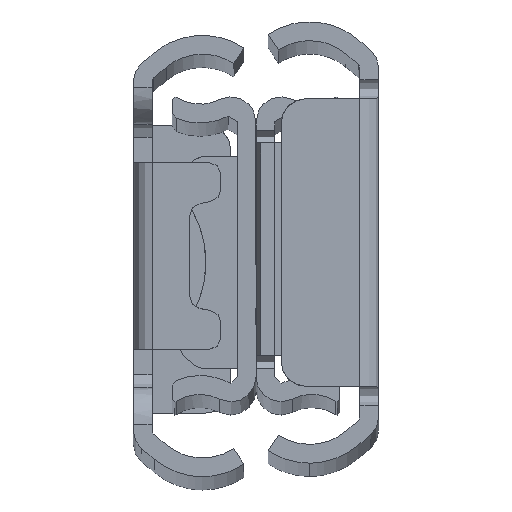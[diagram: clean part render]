
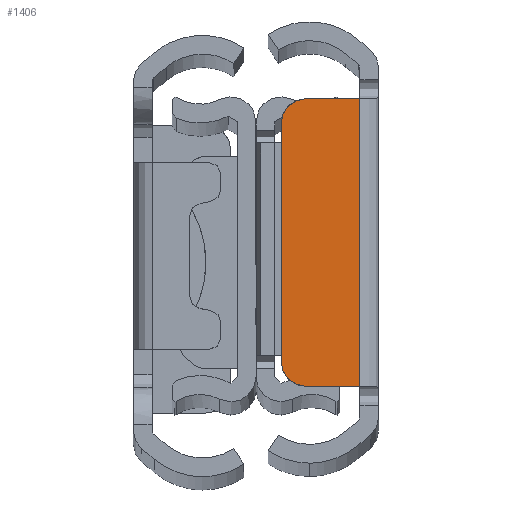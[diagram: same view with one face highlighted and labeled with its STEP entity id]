
A CAD part, top view. The second image highlights one B-rep face of the part: STEP entity #1406.
In plain terms, the highlighted planar face has unit normal (0, 0, 1) as drawn and (0, 0, -1) by its records, which use the part's own axes.
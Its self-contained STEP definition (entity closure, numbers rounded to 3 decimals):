
#25 = VERTEX_POINT ( 'NONE', #3323 ) ;
#172 = CARTESIAN_POINT ( 'NONE',  ( 211.8, 3.167, -101.6 ) ) ;
#302 = FACE_OUTER_BOUND ( 'NONE', #3072, .T. ) ;
#410 = CARTESIAN_POINT ( 'NONE',  ( 211.8, 9.5, -101.6 ) ) ;
#676 = CARTESIAN_POINT ( 'NONE',  ( 213.8, -11.5, -101.6 ) ) ;
#752 = CARTESIAN_POINT ( 'NONE',  ( 211.8, -9.5, -101.6 ) ) ;
#781 = CARTESIAN_POINT ( 'NONE',  ( 212.201, -10.729, -101.6 ) ) ;
#858 = ORIENTED_EDGE ( 'NONE', *, *, #1462, .F. ) ;
#891 = B_SPLINE_CURVE_WITH_KNOTS ( 'NONE', 3,
 ( #2060, #4108, #1632, #4506, #3095, #1100, #3064, #4138, #2563, #1568 ),
 .UNSPECIFIED., .F., .F.,
 ( 4, 2, 2, 2, 4 ),
 ( 0., 0.25, 0.5, 0.75, 1. ),
 .UNSPECIFIED. ) ;
#1100 = CARTESIAN_POINT ( 'NONE',  ( 212.201, 10.729, -101.6 ) ) ;
#1167 = CARTESIAN_POINT ( 'NONE',  ( 211.8, 9.5, -101.6 ) ) ;
#1186 = AXIS2_PLACEMENT_3D ( 'NONE', #4234, #3744, #6229 ) ;
#1290 = CARTESIAN_POINT ( 'NONE',  ( 211.852, -10.023, -101.6 ) ) ;
#1318 = CARTESIAN_POINT ( 'NONE',  ( 218.1, 3.833, -101.6 ) ) ;
#1327 = CARTESIAN_POINT ( 'NONE',  ( 213.8, -11.5, -101.6 ) ) ;
#1370 = CARTESIAN_POINT ( 'NONE',  ( 218.1, 11.5, -101.6 ) ) ;
#1406 = ADVANCED_FACE ( 'NONE', ( #302 ), #2226, .F. ) ;
#1462 = EDGE_CURVE ( 'NONE', #5139, #3658, #5914, .T. ) ;
#1524 = ORIENTED_EDGE ( 'NONE', *, *, #2600, .F. ) ;
#1568 = CARTESIAN_POINT ( 'NONE',  ( 211.8, 9.5, -101.6 ) ) ;
#1632 = CARTESIAN_POINT ( 'NONE',  ( 213.277, 11.448, -101.6 ) ) ;
#1754 = CARTESIAN_POINT ( 'NONE',  ( 211.8, -9.5, -101.6 ) ) ;
#1879 = CARTESIAN_POINT ( 'NONE',  ( 218.1, -11.5, -101.6 ) ) ;
#1966 = CARTESIAN_POINT ( 'NONE',  ( 215.233, 11.5, -101.6 ) ) ;
#1998 = CARTESIAN_POINT ( 'NONE',  ( 216.667, 11.5, -101.6 ) ) ;
#2060 = CARTESIAN_POINT ( 'NONE',  ( 213.8, 11.5, -101.6 ) ) ;
#2093 = EDGE_CURVE ( 'NONE', #6250, #3812, #5608, .T. ) ;
#2226 = PLANE ( 'NONE',  #1186 ) ;
#2318 = CARTESIAN_POINT ( 'NONE',  ( 212.571, -11.099, -101.6 ) ) ;
#2551 = EDGE_CURVE ( 'NONE', #25, #5125, #891, .T. ) ;
#2563 = CARTESIAN_POINT ( 'NONE',  ( 211.8, 9.762, -101.6 ) ) ;
#2600 = EDGE_CURVE ( 'NONE', #5125, #5139, #5313, .T. ) ;
#2602 = CARTESIAN_POINT ( 'NONE',  ( 218.1, 11.5, -101.6 ) ) ;
#2645 = ORIENTED_EDGE ( 'NONE', *, *, #2093, .F. ) ;
#2778 = CARTESIAN_POINT ( 'NONE',  ( 218.1, -11.5, -101.6 ) ) ;
#2811 = CARTESIAN_POINT ( 'NONE',  ( 218.1, -3.833, -101.6 ) ) ;
#2819 = CARTESIAN_POINT ( 'NONE',  ( 213.538, -11.5, -101.6 ) ) ;
#3064 = CARTESIAN_POINT ( 'NONE',  ( 212.052, 10.507, -101.6 ) ) ;
#3072 = EDGE_LOOP ( 'NONE', ( #1524, #6502, #4747, #2645, #5095, #858 ) ) ;
#3095 = CARTESIAN_POINT ( 'NONE',  ( 212.571, 11.099, -101.6 ) ) ;
#3308 = CARTESIAN_POINT ( 'NONE',  ( 215.233, -11.5, -101.6 ) ) ;
#3317 = CARTESIAN_POINT ( 'NONE',  ( 212.052, -10.507, -101.6 ) ) ;
#3323 = CARTESIAN_POINT ( 'NONE',  ( 213.8, 11.5, -101.6 ) ) ;
#3450 = CARTESIAN_POINT ( 'NONE',  ( 216.667, -11.5, -101.6 ) ) ;
#3658 = VERTEX_POINT ( 'NONE', #676 ) ;
#3744 = DIRECTION ( 'NONE',  ( 0., 0., 1. ) ) ;
#3804 = CARTESIAN_POINT ( 'NONE',  ( 211.8, -9.762, -101.6 ) ) ;
#3812 = VERTEX_POINT ( 'NONE', #2602 ) ;
#3877 = CARTESIAN_POINT ( 'NONE',  ( 211.8, -9.5, -101.6 ) ) ;
#4108 = CARTESIAN_POINT ( 'NONE',  ( 213.538, 11.5, -101.6 ) ) ;
#4138 = CARTESIAN_POINT ( 'NONE',  ( 211.852, 10.023, -101.6 ) ) ;
#4221 = B_SPLINE_CURVE_WITH_KNOTS ( 'NONE', 3,
 ( #5396, #3308, #3450, #2778 ),
 .UNSPECIFIED., .F., .F.,
 ( 4, 4 ),
 ( 0., 1. ),
 .UNSPECIFIED. ) ;
#4234 = CARTESIAN_POINT ( 'NONE',  ( 214.4, 13.74, -101.6 ) ) ;
#4329 = CARTESIAN_POINT ( 'NONE',  ( 212.793, -11.248, -101.6 ) ) ;
#4405 = CARTESIAN_POINT ( 'NONE',  ( 213.8, 11.5, -101.6 ) ) ;
#4506 = CARTESIAN_POINT ( 'NONE',  ( 212.793, 11.248, -101.6 ) ) ;
#4668 = CARTESIAN_POINT ( 'NONE',  ( 218.1, -11.5, -101.6 ) ) ;
#4747 = ORIENTED_EDGE ( 'NONE', *, *, #5089, .F. ) ;
#4844 = CARTESIAN_POINT ( 'NONE',  ( 218.1, 11.5, -101.6 ) ) ;
#5089 = EDGE_CURVE ( 'NONE', #3812, #25, #6173, .T. ) ;
#5095 = ORIENTED_EDGE ( 'NONE', *, *, #5342, .F. ) ;
#5125 = VERTEX_POINT ( 'NONE', #410 ) ;
#5139 = VERTEX_POINT ( 'NONE', #3877 ) ;
#5246 = CARTESIAN_POINT ( 'NONE',  ( 211.8, -3.167, -101.6 ) ) ;
#5305 = CARTESIAN_POINT ( 'NONE',  ( 213.277, -11.448, -101.6 ) ) ;
#5313 = B_SPLINE_CURVE_WITH_KNOTS ( 'NONE', 3,
 ( #1167, #172, #5246, #1754 ),
 .UNSPECIFIED., .F., .F.,
 ( 4, 4 ),
 ( 0., 1. ),
 .UNSPECIFIED. ) ;
#5342 = EDGE_CURVE ( 'NONE', #3658, #6250, #4221, .T. ) ;
#5396 = CARTESIAN_POINT ( 'NONE',  ( 213.8, -11.5, -101.6 ) ) ;
#5608 = B_SPLINE_CURVE_WITH_KNOTS ( 'NONE', 3,
 ( #1879, #2811, #1318, #4844 ),
 .UNSPECIFIED., .F., .F.,
 ( 4, 4 ),
 ( 0., 1. ),
 .UNSPECIFIED. ) ;
#5914 = B_SPLINE_CURVE_WITH_KNOTS ( 'NONE', 3,
 ( #752, #3804, #1290, #3317, #781, #2318, #4329, #5305, #2819, #1327 ),
 .UNSPECIFIED., .F., .F.,
 ( 4, 2, 2, 2, 4 ),
 ( 0., 0.25, 0.5, 0.75, 1. ),
 .UNSPECIFIED. ) ;
#6173 = B_SPLINE_CURVE_WITH_KNOTS ( 'NONE', 3,
 ( #1370, #1998, #1966, #4405 ),
 .UNSPECIFIED., .F., .F.,
 ( 4, 4 ),
 ( 0., 1. ),
 .UNSPECIFIED. ) ;
#6229 = DIRECTION ( 'NONE',  ( 0., -1., 0. ) ) ;
#6250 = VERTEX_POINT ( 'NONE', #4668 ) ;
#6502 = ORIENTED_EDGE ( 'NONE', *, *, #2551, .F. ) ;
